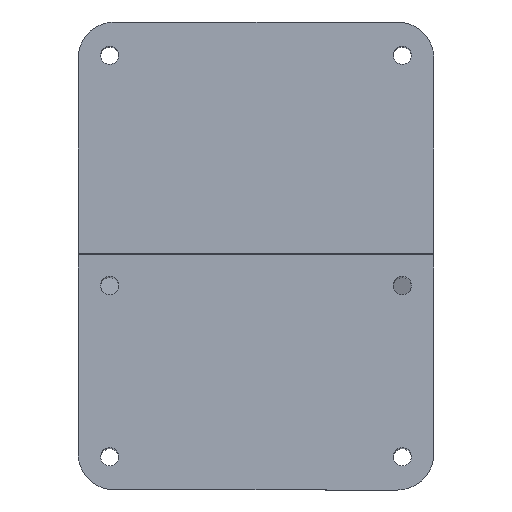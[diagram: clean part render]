
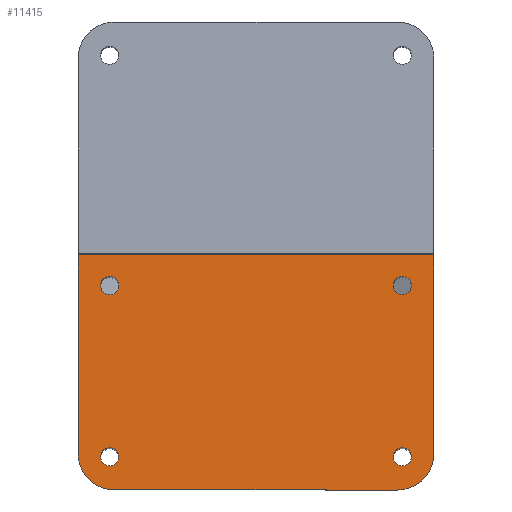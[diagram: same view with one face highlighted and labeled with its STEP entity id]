
A CAD part, front view. The second image highlights one B-rep face of the part: STEP entity #11415.
In plain terms, the highlighted planar face has unit normal (0, -0.999, 0.035) as drawn and (0, 0, -1) by its records, which use the part's own axes.
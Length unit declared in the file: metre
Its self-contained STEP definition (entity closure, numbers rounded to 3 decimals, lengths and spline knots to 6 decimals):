
#25=ELLIPSE('',#12430,0.008901,0.00889);
#26=ELLIPSE('',#12431,0.008901,0.00889);
#648=CIRCLE('',#12418,0.002225);
#650=CIRCLE('',#12421,0.002225);
#652=CIRCLE('',#12424,0.002225);
#654=CIRCLE('',#12427,0.002225);
#3462=ORIENTED_EDGE('',*,*,#5249,.T.);
#3463=ORIENTED_EDGE('',*,*,#5247,.T.);
#3464=ORIENTED_EDGE('',*,*,#5255,.F.);
#3465=ORIENTED_EDGE('',*,*,#5256,.T.);
#3466=ORIENTED_EDGE('',*,*,#5257,.T.);
#3467=ORIENTED_EDGE('',*,*,#5258,.T.);
#3468=ORIENTED_EDGE('',*,*,#5259,.F.);
#3469=ORIENTED_EDGE('',*,*,#5260,.T.);
#3470=ORIENTED_EDGE('',*,*,#5251,.F.);
#3471=ORIENTED_EDGE('',*,*,#5253,.F.);
#5247=EDGE_CURVE('',#6378,#6378,#648,.T.);
#5249=EDGE_CURVE('',#6380,#6380,#650,.T.);
#5251=EDGE_CURVE('',#6382,#6382,#652,.F.);
#5253=EDGE_CURVE('',#6384,#6384,#654,.F.);
#5255=EDGE_CURVE('',#6386,#6387,#7553,.F.);
#5256=EDGE_CURVE('',#6386,#6388,#25,.F.);
#5257=EDGE_CURVE('',#6388,#6389,#7554,.T.);
#5258=EDGE_CURVE('',#6389,#6390,#7555,.T.);
#5259=EDGE_CURVE('',#6391,#6390,#7556,.F.);
#5260=EDGE_CURVE('',#6391,#6387,#26,.F.);
#6378=VERTEX_POINT('',#19001);
#6380=VERTEX_POINT('',#19006);
#6382=VERTEX_POINT('',#19011);
#6384=VERTEX_POINT('',#19016);
#6386=VERTEX_POINT('',#19021);
#6387=VERTEX_POINT('',#19022);
#6388=VERTEX_POINT('',#19024);
#6389=VERTEX_POINT('',#19026);
#6390=VERTEX_POINT('',#19028);
#6391=VERTEX_POINT('',#19030);
#7553=LINE('',#19020,#8730);
#7554=LINE('',#19025,#8731);
#7555=LINE('',#19027,#8732);
#7556=LINE('',#19029,#8733);
#8730=VECTOR('',#15310,1.);
#8731=VECTOR('',#15313,1.);
#8732=VECTOR('',#15314,1.);
#8733=VECTOR('',#15315,1.);
#9476=EDGE_LOOP('',(#3462));
#9477=EDGE_LOOP('',(#3463));
#9478=EDGE_LOOP('',(#3464,#3465,#3466,#3467,#3468,#3469));
#9479=EDGE_LOOP('',(#3470));
#9480=EDGE_LOOP('',(#3471));
#10254=FACE_BOUND('',#9476,.T.);
#10255=FACE_BOUND('',#9477,.T.);
#10256=FACE_BOUND('',#9478,.T.);
#10257=FACE_BOUND('',#9479,.T.);
#10258=FACE_BOUND('',#9480,.T.);
#10807=PLANE('',#12429);
#11415=ADVANCED_FACE('',(#10254,#10255,#10256,#10257,#10258),#10807,.F.);
#12418=AXIS2_PLACEMENT_3D('',#19000,#15286,#15287);
#12421=AXIS2_PLACEMENT_3D('',#19005,#15292,#15293);
#12424=AXIS2_PLACEMENT_3D('',#19010,#15298,#15299);
#12427=AXIS2_PLACEMENT_3D('',#19015,#15304,#15305);
#12429=AXIS2_PLACEMENT_3D('',#19019,#15308,#15309);
#12430=AXIS2_PLACEMENT_3D('',#19023,#15311,#15312);
#12431=AXIS2_PLACEMENT_3D('',#19031,#15316,#15317);
#15286=DIRECTION('',(0.,0.,1.));
#15287=DIRECTION('',(1.,0.,0.));
#15292=DIRECTION('',(0.,0.,1.));
#15293=DIRECTION('',(1.,0.,0.));
#15298=DIRECTION('',(0.,0.,1.));
#15299=DIRECTION('',(1.,0.,0.));
#15304=DIRECTION('',(0.,0.,1.));
#15305=DIRECTION('',(1.,0.,0.));
#15308=DIRECTION('',(0.,0.,1.));
#15309=DIRECTION('',(1.,0.,0.));
#15310=DIRECTION('',(-1.,0.,0.));
#15311=DIRECTION('',(0.,0.,1.));
#15312=DIRECTION('',(-0.707,-0.707,0.));
#15313=DIRECTION('',(0.,1.,0.));
#15314=DIRECTION('',(1.,0.,0.));
#15315=DIRECTION('',(0.,-1.,0.));
#15316=DIRECTION('',(0.,0.,1.));
#15317=DIRECTION('',(0.707,-0.707,0.));
#19000=CARTESIAN_POINT('',(0.00769,0.008071,0.));
#19001=CARTESIAN_POINT('',(0.009915,0.008071,0.));
#19005=CARTESIAN_POINT('',(0.00769,0.049727,0.));
#19006=CARTESIAN_POINT('',(0.009915,0.049727,0.));
#19010=CARTESIAN_POINT('',(0.07881,0.049727,0.));
#19011=CARTESIAN_POINT('',(0.081035,0.049727,0.));
#19015=CARTESIAN_POINT('',(0.07881,0.008071,0.));
#19016=CARTESIAN_POINT('',(0.081035,0.008071,0.));
#19019=CARTESIAN_POINT('',(0.04325,0.028575,0.));
#19020=CARTESIAN_POINT('',(0.04325,0.,0.));
#19021=CARTESIAN_POINT('',(0.008885,0.,0.));
#19022=CARTESIAN_POINT('',(0.077615,0.,0.));
#19023=CARTESIAN_POINT('',(0.008895,0.008895,0.));
#19024=CARTESIAN_POINT('',(0.,0.008885,0.));
#19025=CARTESIAN_POINT('',(0.,0.,0.));
#19026=CARTESIAN_POINT('',(0.,0.05715,0.));
#19027=CARTESIAN_POINT('',(0.04325,0.05715,0.));
#19028=CARTESIAN_POINT('',(0.0865,0.05715,0.));
#19029=CARTESIAN_POINT('',(0.0865,0.,0.));
#19030=CARTESIAN_POINT('',(0.0865,0.008885,0.));
#19031=CARTESIAN_POINT('',(0.077605,0.008895,0.));
